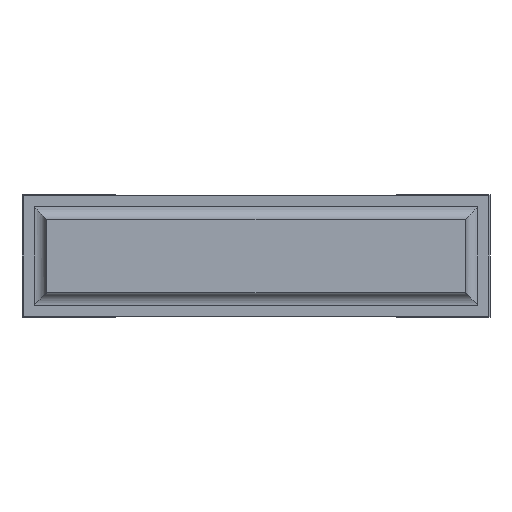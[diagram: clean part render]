
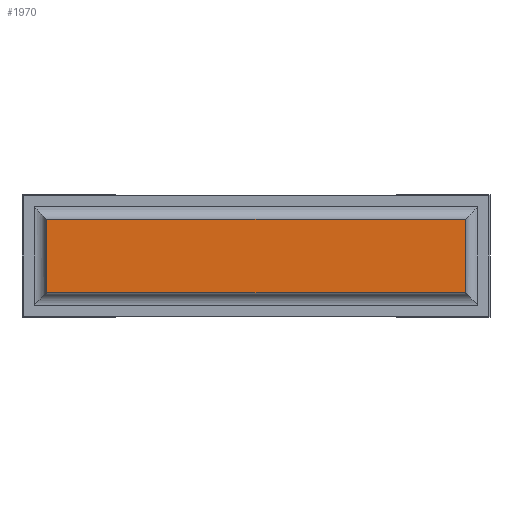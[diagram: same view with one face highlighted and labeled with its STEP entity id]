
A CAD part, front view. The second image highlights one B-rep face of the part: STEP entity #1970.
In plain terms, the highlighted planar face has unit normal (0, -1, 0).
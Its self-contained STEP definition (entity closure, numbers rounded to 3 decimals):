
#55=PLANE('',#2134);
#168=FACE_OUTER_BOUND('',#292,.T.);
#292=EDGE_LOOP('',(#1527,#1528,#1529,#1530));
#444=LINE('',#2942,#696);
#448=LINE('',#2954,#700);
#449=LINE('',#2956,#701);
#450=LINE('',#2957,#702);
#696=VECTOR('',#2400,10.);
#700=VECTOR('',#2412,10.);
#701=VECTOR('',#2413,10.);
#702=VECTOR('',#2414,10.);
#955=VERTEX_POINT('',#2938);
#957=VERTEX_POINT('',#2941);
#961=VERTEX_POINT('',#2953);
#962=VERTEX_POINT('',#2955);
#1164=EDGE_CURVE('',#957,#955,#444,.T.);
#1170=EDGE_CURVE('',#961,#957,#448,.T.);
#1171=EDGE_CURVE('',#962,#955,#449,.T.);
#1172=EDGE_CURVE('',#961,#962,#450,.T.);
#1527=ORIENTED_EDGE('',*,*,#1170,.T.);
#1528=ORIENTED_EDGE('',*,*,#1164,.T.);
#1529=ORIENTED_EDGE('',*,*,#1171,.F.);
#1530=ORIENTED_EDGE('',*,*,#1172,.F.);
#1970=ADVANCED_FACE('',(#168),#55,.T.);
#2134=AXIS2_PLACEMENT_3D('',#2952,#2410,#2411);
#2400=DIRECTION('',(0.,0.,-1.));
#2410=DIRECTION('center_axis',(0.,-1.,0.));
#2411=DIRECTION('ref_axis',(0.,0.,-1.));
#2412=DIRECTION('',(-1.,0.,0.));
#2413=DIRECTION('',(-1.,0.,0.));
#2414=DIRECTION('',(0.,0.,-1.));
#2938=CARTESIAN_POINT('',(0.1,0.,0.1));
#2941=CARTESIAN_POINT('',(0.1,0.,0.4));
#2942=CARTESIAN_POINT('',(0.1,0.,0.4));
#2952=CARTESIAN_POINT('Origin',(1.81,0.,0.25));
#2953=CARTESIAN_POINT('',(1.81,0.,0.4));
#2954=CARTESIAN_POINT('',(1.81,0.,0.4));
#2955=CARTESIAN_POINT('',(1.81,0.,0.1));
#2956=CARTESIAN_POINT('',(1.81,0.,0.1));
#2957=CARTESIAN_POINT('',(1.81,0.,0.4));
